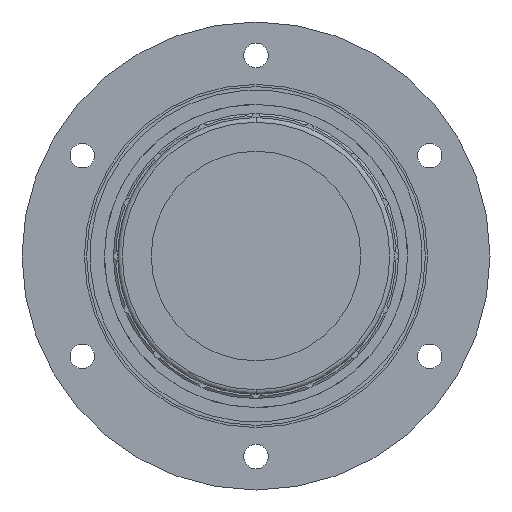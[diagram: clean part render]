
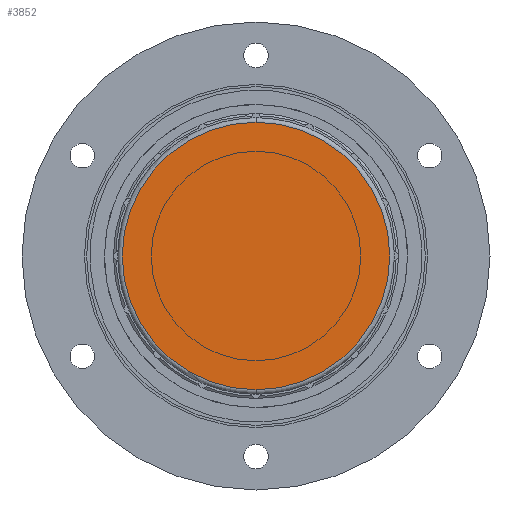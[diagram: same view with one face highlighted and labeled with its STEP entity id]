
A CAD part, front view. The second image highlights one B-rep face of the part: STEP entity #3852.
In plain terms, the highlighted planar face has unit normal (0, -1, 0).
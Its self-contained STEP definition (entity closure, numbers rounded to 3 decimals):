
#173 = CARTESIAN_POINT ( 'NONE',  ( 0., 0., 30. ) ) ;
#456 = DIRECTION ( 'NONE',  ( 0., -1., 0. ) ) ;
#468 = EDGE_CURVE ( 'NONE', #1738, #1705, #3770, .T. ) ;
#808 = CARTESIAN_POINT ( 'NONE',  ( 0., 0., 0. ) ) ;
#841 = AXIS2_PLACEMENT_3D ( 'NONE', #1441, #2054, #3583 ) ;
#1441 = CARTESIAN_POINT ( 'NONE',  ( 0., 0., 0. ) ) ;
#1704 = AXIS2_PLACEMENT_3D ( 'NONE', #2839, #2975, #3559 ) ;
#1705 = VERTEX_POINT ( 'NONE', #173 ) ;
#1738 = VERTEX_POINT ( 'NONE', #2872 ) ;
#2054 = DIRECTION ( 'NONE',  ( 0., -1., 0. ) ) ;
#2465 = ORIENTED_EDGE ( 'NONE', *, *, #2587, .T. ) ;
#2587 = EDGE_CURVE ( 'NONE', #1705, #1738, #2728, .T. ) ;
#2645 = ORIENTED_EDGE ( 'NONE', *, *, #468, .T. ) ;
#2728 = CIRCLE ( 'NONE', #1704, 30. ) ;
#2839 = CARTESIAN_POINT ( 'NONE',  ( 0., 0., 0. ) ) ;
#2872 = CARTESIAN_POINT ( 'NONE',  ( 0., 0., -30. ) ) ;
#2975 = DIRECTION ( 'NONE',  ( 0., -1., 0. ) ) ;
#3189 = FACE_OUTER_BOUND ( 'NONE', #3899, .T. ) ;
#3371 = AXIS2_PLACEMENT_3D ( 'NONE', #808, #456, #3533 ) ;
#3533 = DIRECTION ( 'NONE',  ( 0., 0., -1. ) ) ;
#3559 = DIRECTION ( 'NONE',  ( 0., 0., -1. ) ) ;
#3583 = DIRECTION ( 'NONE',  ( 0., 0., -1. ) ) ;
#3770 = CIRCLE ( 'NONE', #841, 30. ) ;
#3843 = PLANE ( 'NONE',  #3371 ) ;
#3852 = ADVANCED_FACE ( 'NONE', ( #3189 ), #3843, .T. ) ;
#3899 = EDGE_LOOP ( 'NONE', ( #2645, #2465 ) ) ;
